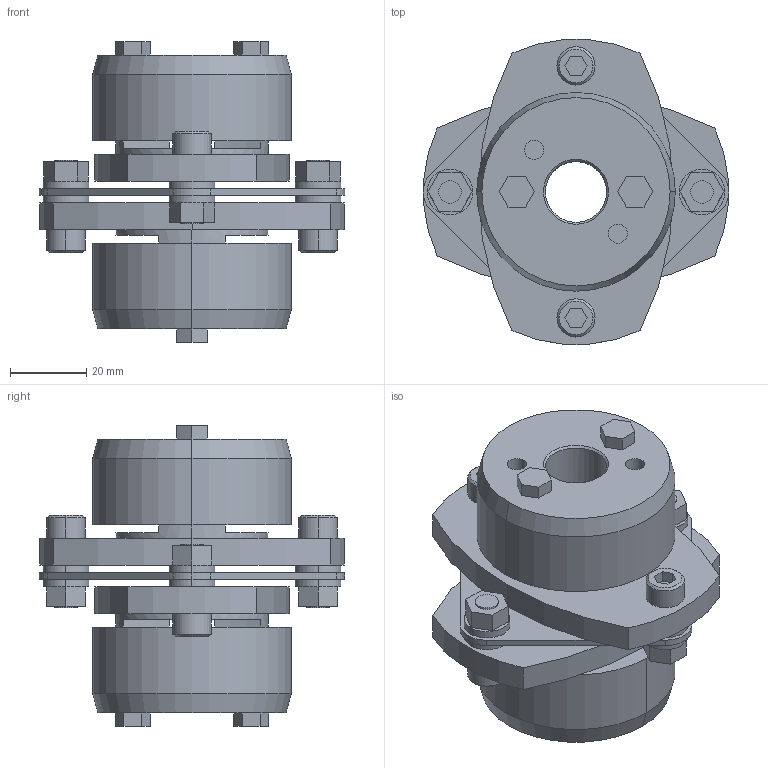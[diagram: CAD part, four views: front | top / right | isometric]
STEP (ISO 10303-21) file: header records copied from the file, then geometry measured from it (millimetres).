
FILE_DESCRIPTION((''),'2;1');
FILE_NAME('LCS-80T7-16×16.stp','2015-10-31T17:29:19',(''),(''),'AutoCAD STEP 2000i','AutoCAD 2000i',', , ');
FILE_SCHEMA(('CONFIG_CONTROL_DESIGN'));
Length unit declared in the file: millimetre
Products named in the file (5): LCS-80T7-17×17; 忣兜1; LC80T7-T017-1; LC80T7-T017; LCS80-ITA
Assembly tree (4 placements, depth 2):
  LCS-80T7-17×17
    忣兜1
    LC80T7-T017-1
    LC80T7-T017
    LCS80-ITA
Bounding box: 80 x 79.95 x 78.75 mm (x, y, z)
Volume: 145727.7 mm3; surface area: 41131.1 mm2
Topology: 1 solids, 1 shells, 218 faces, 532 edges, 348 vertices
Faces by surface type: plane 118, cylinder 80, cone 20
Entity records: 6619 total; most frequent: DIRECTION 1174, CARTESIAN_POINT 1103, ORIENTED_EDGE 1064, EDGE_CURVE 532, AXIS2_PLACEMENT_3D 419, VERTEX_POINT 348, VECTOR 336, LINE 336
